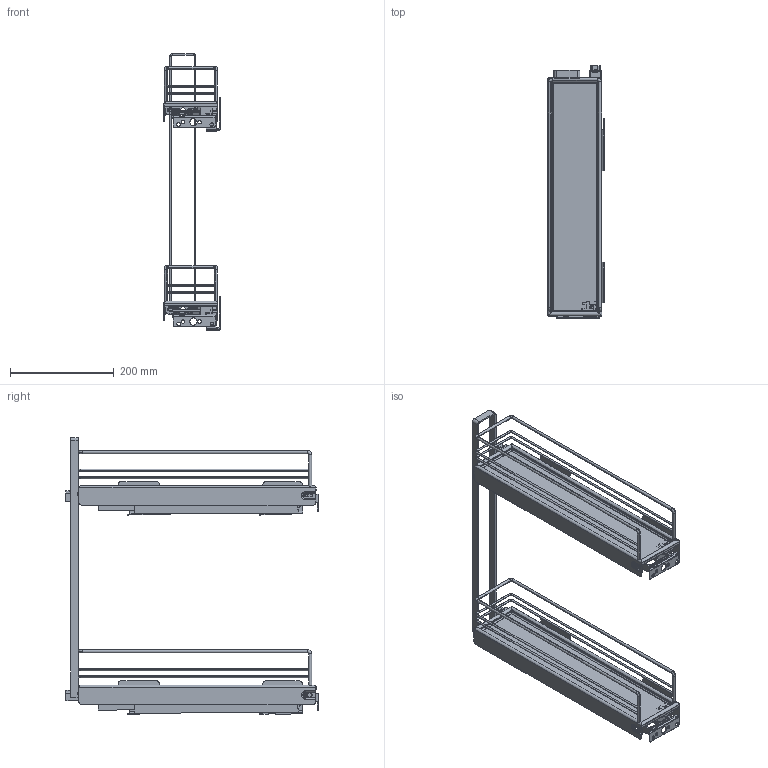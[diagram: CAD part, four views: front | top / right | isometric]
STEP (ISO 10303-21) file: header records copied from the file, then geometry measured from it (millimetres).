
FILE_DESCRIPTION(('STEP AP242'),'1');
FILE_NAME('OPO_53.110.60_volu_3d.stp','2025-11-08T20:24:24',(' '),(' '),'Spatial InterOp 3D',' ',' ');
FILE_SCHEMA(('AP242_MANAGED_MODEL_BASED_3D_ENGINEERING_MIM_LF {1 0 10303 442 1 1 4}'));
Length unit declared in the file: millimetre
Products named in the file (1): 1
Bounding box: 108.2 x 485.85 x 533.33 mm (x, y, z)
Volume: 884879.2 mm3; surface area: 701700 mm2
Topology: 10 solids, 10 shells, 2137 faces, 5731 edges, 3597 vertices
Faces by surface type: plane 1009, cylinder 806, torus 152, bspline 105, sphere 40, cone 22, extrusion 3
Entity records: 100378 total; most frequent: CARTESIAN_POINT 29295, ORIENTED_EDGE 11462, DIRECTION 11207, EDGE_CURVE 5731, AXIS2_PLACEMENT_3D 3839, VERTEX_POINT 3597, VECTOR 3529, LINE 3526
